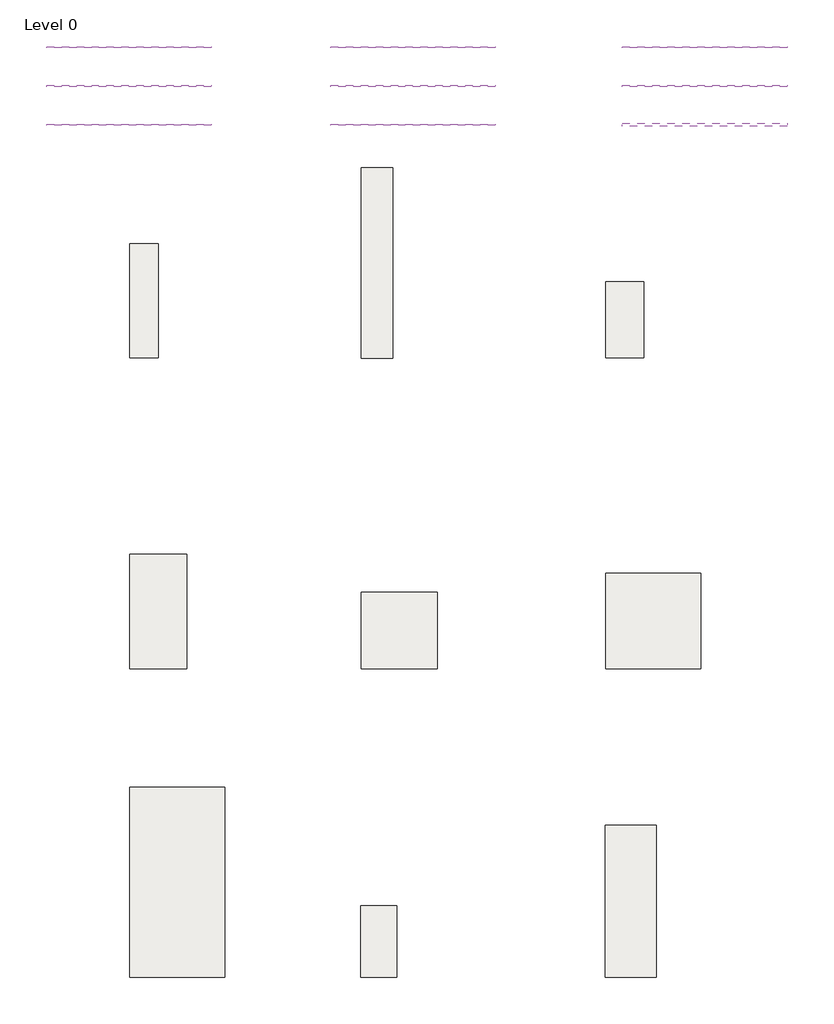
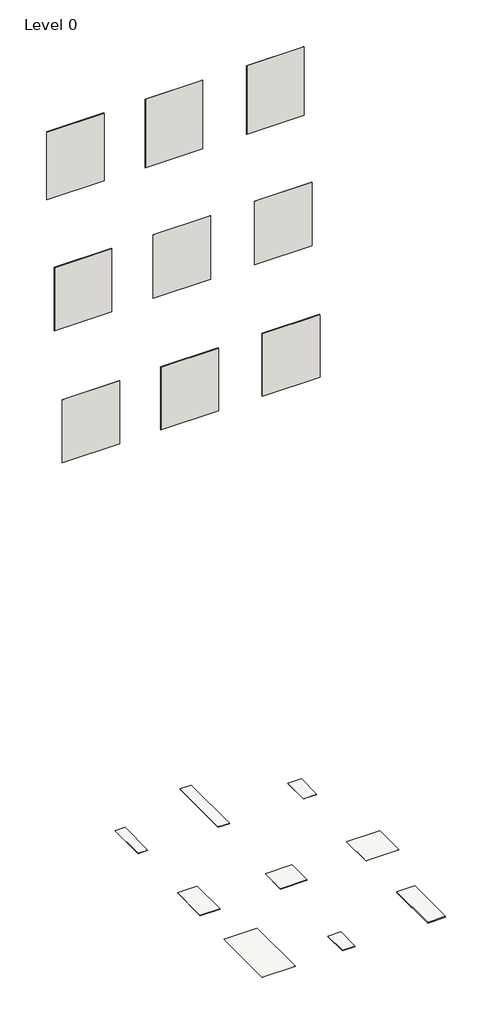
# One storey: 9 slabs, 9 walls.
"""IFC4 building model written with IfcOpenShell, lengths in millimetres."""

from ifc_helpers import new_model, si_unit, frame, origin, place, context, project, spatial, polyline, outline, extrude, element, save

model = new_model("IFC4")

# Units and contexts
model_context = context("Model", 3, world=origin())
ifc_project = project(units=[si_unit("LENGTHUNIT", "METRE", prefix="MILLI")], contexts=[model_context])

# Site, building, storey
site = spatial("IfcSite", under=ifc_project)
building = spatial("IfcBuilding", under=site)
storey = spatial("IfcBuildingStorey", under=building, Name="Level 0", Elevation=0.0)

# Slabs
placement = place(None, origin())
element("IfcSlab", 1, ObjectType="Floor_Tiles_Refin-Plant-Ash-30x60 NE99", at=placement, inside=storey, context=model_context, shape_type="SweptSolid", body=[
    extrude(outline(polyline([(10627.1861419, 6289.4623743), (10627.1861419, 5689.4623743), (10327.1861419, 5689.4623743), (10327.1861419, 6289.4623743), (10627.1861419, 6289.4623743)])), frame((0.0, 0.0, -10.0), z_axis=(0.0, 0.0, 1.0), x_axis=(1.0, 0.0, 0.0)), (0.0, 0.0, 1.0), 10.0),
])
element("IfcSlab", 2, ObjectType="Floor_Tiles_Refin-Plant-Ash-22.5x90 LZ17", at=placement, inside=storey, context=model_context, shape_type="SweptSolid", body=[
    extrude(outline(polyline([(6799.3752062, 6589.4623743), (6799.3752062, 5689.4623743), (6574.3752062, 5689.4623743), (6574.3752062, 6589.4623743), (6799.3752062, 6589.4623743)])), frame((0.0, 0.0, -10.0), z_axis=(0.0, 0.0, 1.0), x_axis=(1.0, 0.0, 0.0)), (0.0, 0.0, 1.0), 10.0),
])
element("IfcSlab", 3, ObjectType="Floor_Tiles_Refin-Plant-Ash-75x75 MT32", at=placement, inside=storey, context=model_context, shape_type="SweptSolid", body=[
    extrude(outline(polyline([(11077.1861419, 3989.4623743), (11077.1861419, 3239.4623743), (10327.1861419, 3239.4623743), (10327.1861419, 3989.4623743), (11077.1861419, 3989.4623743)])), frame((0.0, 0.0, -10.0), z_axis=(0.0, 0.0, 1.0), x_axis=(1.0, 0.0, 0.0)), (0.0, 0.0, 1.0), 10.0),
])
element("IfcSlab", 4, ObjectType="Floor_Tiles_Refin-Plant-Ash-60x60 LY36", at=placement, inside=storey, context=model_context, shape_type="SweptSolid", body=[
    extrude(outline(polyline([(8997.3924055, 3839.4623743), (8997.3924055, 3239.4623743), (8397.3924055, 3239.4623743), (8397.3924055, 3839.4623743), (8997.3924055, 3839.4623743)])), frame((0.0, 0.0, -10.0), z_axis=(0.0, 0.0, 1.0), x_axis=(1.0, 0.0, 0.0)), (0.0, 0.0, 1.0), 10.0),
])
element("IfcSlab", 5, ObjectType="Floor_Tiles_Refin-Plant-Ash-45x90 LY41", at=placement, inside=storey, context=model_context, shape_type="SweptSolid", body=[
    extrude(outline(polyline([(7024.3752062, 4139.4623743), (7024.3752062, 3239.4623743), (6574.3752062, 3239.4623743), (6574.3752062, 4139.4623743), (7024.3752062, 4139.4623743)])), frame((0.0, 0.0, -10.0), z_axis=(0.0, 0.0, 1.0), x_axis=(1.0, 0.0, 0.0)), (0.0, 0.0, 1.0), 10.0),
])
element("IfcSlab", 6, ObjectType="Floor_Tiles_Refin-Plant-Ash-75x150 LZ33", at=placement, inside=storey, context=model_context, shape_type="SweptSolid", body=[
    extrude(outline(polyline([(7322.6009331, 2303.4367235), (7322.6009331, 803.4367235), (6572.6009331, 803.4367235), (6572.6009331, 2303.4367235), (7322.6009331, 2303.4367235)])), frame((0.0, 0.0, -10.0), z_axis=(0.0, 0.0, 1.0), x_axis=(1.0, 0.0, 0.0)), (0.0, 0.0, 1.0), 10.0),
])
element("IfcSlab", 7, ObjectType="Floor_Tiles_Refin-Plant-Ash-25x150 LZ29", at=placement, inside=storey, context=model_context, shape_type="SweptSolid", body=[
    extrude(outline(polyline([(8647.3924055, 7188.4192064), (8647.3924055, 5688.4192064), (8397.3924055, 5688.4192064), (8397.3924055, 7188.4192064), (8647.3924055, 7188.4192064)])), frame((0.0, 0.0, -10.0), z_axis=(0.0, 0.0, 1.0), x_axis=(1.0, 0.0, 0.0)), (0.0, 0.0, 1.0), 10.0),
])
element("IfcSlab", 8, ObjectType="Floor_Tiles_Refin-Plant-Ash-Muretto-28.5x56.5 LY92", at=placement, inside=storey, context=model_context, shape_type="SweptSolid", body=[
    extrude(outline(polyline([(8680.6181323, 1368.4367235), (8680.6181323, 803.4367235), (8395.6181323, 803.4367235), (8395.6181323, 1368.4367235), (8680.6181323, 1368.4367235)])), frame((0.0, 0.0, -10.0), z_axis=(0.0, 0.0, 1.0), x_axis=(1.0, 0.0, 0.0)), (0.0, 0.0, 1.0), 10.0),
])
element("IfcSlab", 9, ObjectType="Floor_Tiles_Refin-Plant-Ash-OUT2.0-40x120 MH91", at=placement, inside=storey, context=model_context, shape_type="SweptSolid", body=[
    extrude(outline(polyline([(10725.4118688, 2003.4367235), (10725.4118688, 803.4367235), (10325.4118688, 803.4367235), (10325.4118688, 2003.4367235), (10725.4118688, 2003.4367235)])), frame((0.0, 0.0, -21.0), z_axis=(0.0, 0.0, 1.0), x_axis=(1.0, 0.0, 0.0)), (0.0, 0.0, 1.0), 21.0),
])

# Walls
element("IfcWall", 10, ObjectType="Wall_Tiles_Refin-Plant-Ash-25x150 LZ29", at=placement, inside=storey, context=model_context, shape_type="SweptSolid", body=[
    extrude(outline(polyline([(9457.3752062, 8132.3838631), (8157.3752062, 8132.3838631), (8157.3752062, 8142.3838631), (9457.3752062, 8142.3838631), (9457.3752062, 8132.3838631)])), frame((0.0, 0.0, 14387.6770443), z_axis=(0.0, 0.0, 1.0), x_axis=(1.0, 0.0, 0.0)), (0.0, 0.0, 1.0), 1641.7417352),
])
element("IfcWall", 11, ObjectType="Wall_Tiles_Refin-Plant-Ash-30x60 NE99", at=placement, inside=storey, context=model_context, shape_type="SweptSolid", body=[
    extrude(outline(polyline([(11757.3752062, 8132.3838631), (10457.3752062, 8132.3838631), (10457.3752062, 8142.3838631), (11757.3752062, 8142.3838631), (11757.3752062, 8132.3838631)])), frame((0.0, 0.0, 14387.6770443), z_axis=(0.0, 0.0, 1.0), x_axis=(1.0, 0.0, 0.0)), (0.0, 0.0, 1.0), 1641.7417352),
])
element("IfcWall", 12, ObjectType="Wall_Tiles_Refin-Plant-Ash-22.5x90 LZ17", at=placement, inside=storey, context=model_context, shape_type="SweptSolid", body=[
    extrude(outline(polyline([(7217.3752062, 8132.3838631), (5917.3752062, 8132.3838631), (5917.3752062, 8142.3838631), (7217.3752062, 8142.3838631), (7217.3752062, 8132.3838631)])), frame((0.0, 0.0, 14403.7267346), z_axis=(0.0, 0.0, 1.0), x_axis=(1.0, 0.0, 0.0)), (0.0, 0.0, 1.0), 1625.692045),
])
element("IfcWall", 13, ObjectType="Wall_Tiles_Refin-Plant-Ash-45x90 LY41", at=placement, inside=storey, context=model_context, shape_type="SweptSolid", body=[
    extrude(outline(polyline([(7217.3752062, 7827.3838631), (5917.3752062, 7827.3838631), (5917.3752062, 7837.3838631), (7217.3752062, 7837.3838631), (7217.3752062, 7827.3838631)])), frame((0.0, 0.0, 11452.5436262), z_axis=(0.0, 0.0, 1.0), x_axis=(1.0, 0.0, 0.0)), (0.0, 0.0, 1.0), 1513.1985566),
])
element("IfcWall", 14, ObjectType="Wall_Tiles_Refin-Plant-Ash-60x60 LY36", at=placement, inside=storey, context=model_context, shape_type="SweptSolid", body=[
    extrude(outline(polyline([(9457.3752062, 7827.3838631), (8157.3752062, 7827.3838631), (8157.3752062, 7837.3838631), (9457.3752062, 7837.3838631), (9457.3752062, 7827.3838631)])), frame((0.0, 0.0, 11452.5436262), z_axis=(0.0, 0.0, 1.0), x_axis=(1.0, 0.0, 0.0)), (0.0, 0.0, 1.0), 1513.1985566),
])
element("IfcWall", 15, ObjectType="Wall_Tiles_Refin-Plant-Ash-75x75 MT32", at=placement, inside=storey, context=model_context, shape_type="SweptSolid", body=[
    extrude(outline(polyline([(11757.3752062, 7827.3838631), (10457.3752062, 7827.3838631), (10457.3752062, 7837.3838631), (11757.3752062, 7837.3838631), (11757.3752062, 7827.3838631)])), frame((0.0, 0.0, 11452.5436262), z_axis=(0.0, 0.0, 1.0), x_axis=(1.0, 0.0, 0.0)), (0.0, 0.0, 1.0), 1513.1985566),
])
element("IfcWall", 16, ObjectType="Wall_Tiles_Refin-Plant-Ash-75x150 LZ33", at=placement, inside=storey, context=model_context, shape_type="SweptSolid", body=[
    extrude(outline(polyline([(7217.3752062, 7522.3838631), (5917.3752062, 7522.3838631), (5917.3752062, 7532.3838631), (7217.3752062, 7532.3838631), (7217.3752062, 7522.3838631)])), frame((0.0, 0.0, 8479.1027214), z_axis=(0.0, 0.0, 1.0), x_axis=(1.0, 0.0, 0.0)), (0.0, 0.0, 1.0), 1502.5740159),
])
element("IfcWall", 17, ObjectType="Wall_Tiles_Refin-Plant-Ash-Muretto-28.5x56.5 LY92", at=placement, inside=storey, context=model_context, shape_type="SweptSolid", body=[
    extrude(outline(polyline([(9457.3752062, 7522.3838631), (8157.3752062, 7522.3838631), (8157.3752062, 7532.3838631), (9457.3752062, 7532.3838631), (9457.3752062, 7522.3838631)])), frame((0.0, 0.0, 8479.1027214), z_axis=(0.0, 0.0, 1.0), x_axis=(1.0, 0.0, 0.0)), (0.0, 0.0, 1.0), 1502.5740159),
])
element("IfcWall", 18, ObjectType="Wall_Tiles_Refin-Plant-Ash-OUT2.0-40x120 MH91", at=placement, inside=storey, context=model_context, shape_type="SweptSolid", body=[
    extrude(outline(polyline([(11757.3752062, 7516.8838631), (10457.3752062, 7516.8838631), (10457.3752062, 7537.8838631), (11757.3752062, 7537.8838631), (11757.3752062, 7516.8838631)])), frame((0.0, 0.0, 8479.1027214), z_axis=(0.0, 0.0, 1.0), x_axis=(1.0, 0.0, 0.0)), (0.0, 0.0, 1.0), 1502.5740159),
])

save(model, "model.ifc")
